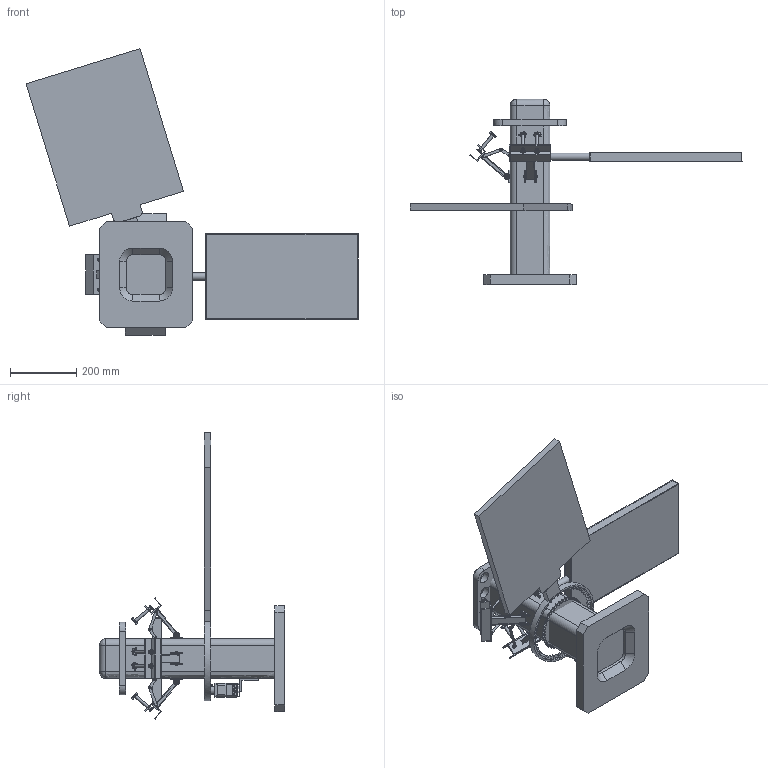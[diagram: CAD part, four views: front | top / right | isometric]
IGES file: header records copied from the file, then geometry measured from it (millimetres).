
Global section: file name: Fab Mode v40; native system: unknown; preprocessor: unknown; author: unknown; organization: unknown; date: 20200325.125345; units: millimetre
Bounding box: 1002.74 x 560 x 864.94 mm (x, y, z)
Volume: 14681489.3 mm3; surface area: 1907729.2 mm2
Topology: 120 solids, 121 shells, 3117 faces, 7812 edges, 5087 vertices
Faces by surface type: bspline 3117
